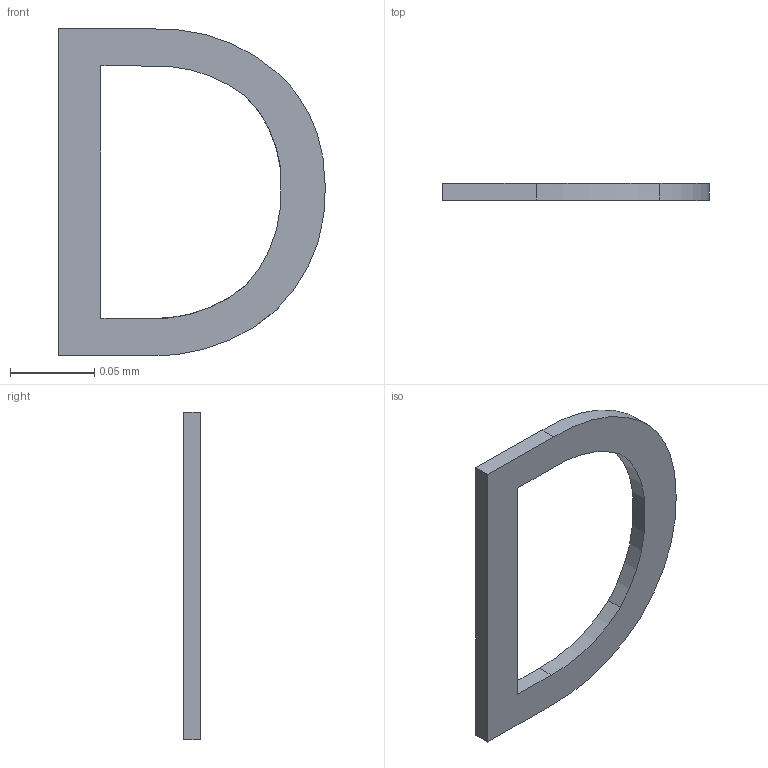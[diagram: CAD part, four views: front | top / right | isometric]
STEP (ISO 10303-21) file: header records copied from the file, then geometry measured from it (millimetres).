
FILE_DESCRIPTION(/* description */ ('STEP AP242 Edition 2','CAx-IF Rec.Pracs.---Representation and Presentation of Product Manufacturing Information (PMI)---4.0---2014-10-13','CAx-IF Rec.Pracs.---3D Tessellated Geometry---0.4---2014-09-14','2;1','CAx-IF Rec.Pracs.---User Defined Attributes---1.5---2016-08-15'),/* implementation_level */ '2;1');
FILE_NAME(/* name */ 'Assembly 1 - SW-TH_3P-L5.8_WSGT-3P-CC~SW-TH_3P-L5.8_WSGT-3P-CC~nxQB (9)',/* time_stamp */ '2026-04-02T09:55:27Z',/* author */ (''),/* organization */ (''),/* preprocessor_version */ 'ST-DEVELOPER v20',/* originating_system */ 'ONSHAPE BY PTC INC, 1.212',/* authorisation */ ' ');
FILE_SCHEMA (('AP242_MANAGED_MODEL_BASED_3D_ENGINEERING_MIM_LF { 1 0 10303 442 3 1 4 }'));
Length unit declared in the file: metre
Products named in the file (1): SW-TH_3P-L5.8_WSGT-3P-CC~SW-TH_3P-L5.8_WSGT-3P-CC~nxQB
Bounding box: 0.16 x 0.01 x 0.2 mm (x, y, z)
Volume: 0 mm3; surface area: 0 mm2
Topology: 1 solids, 1 shells, 16 faces, 42 edges, 28 vertices
Faces by surface type: plane 8, sphere 4, cylinder 3, bspline 1
Entity records: 655 total; most frequent: CARTESIAN_POINT 130, ORIENTED_EDGE 84, DIRECTION 76, EDGE_CURVE 42, AXIS2_PLACEMENT_3D 30, VERTEX_POINT 28, EDGE_LOOP 18, FACE_BOUND 18
